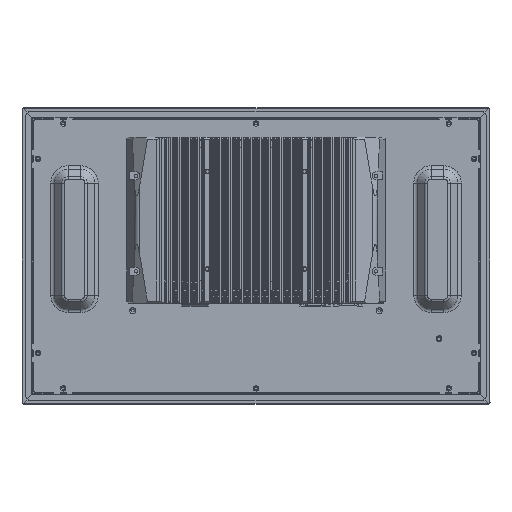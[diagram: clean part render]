
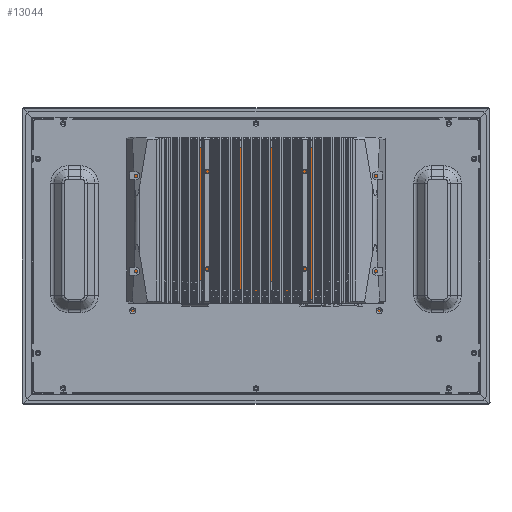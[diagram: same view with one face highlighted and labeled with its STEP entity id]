
A CAD part, top view. The second image highlights one B-rep face of the part: STEP entity #13044.
In plain terms, the highlighted planar face has unit normal (0, 0, -1).
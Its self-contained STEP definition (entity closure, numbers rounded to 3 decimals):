
#547 = AXIS2_PLACEMENT_3D ( 'NONE', #26414, #79817, #38566 ) ;
#584 = CARTESIAN_POINT ( 'NONE',  ( -205.1, -115.52, 0.2 ) ) ;
#1296 = DIRECTION ( 'NONE',  ( 1., 0., 0. ) ) ;
#2211 = CARTESIAN_POINT ( 'NONE',  ( 205.1, -115.52, 0.2 ) ) ;
#3041 = DIRECTION ( 'NONE',  ( -1., 0., 0. ) ) ;
#5070 = EDGE_CURVE ( 'NONE', #83509, #12127, #64584, .T. ) ;
#9489 = ORIENTED_EDGE ( 'NONE', *, *, #91323, .F. ) ;
#12127 = VERTEX_POINT ( 'NONE', #27437 ) ;
#13044 = ADVANCED_FACE ( 'NONE', ( #44707 ), #67589, .T. ) ;
#14508 = EDGE_LOOP ( 'NONE', ( #84929, #68093, #9489, #52059 ) ) ;
#15234 = LINE ( 'NONE', #56360, #61712 ) ;
#18016 = EDGE_CURVE ( 'NONE', #59425, #51558, #25346, .T. ) ;
#18915 = DIRECTION ( 'NONE',  ( 0., 1., 0. ) ) ;
#20870 = CARTESIAN_POINT ( 'NONE',  ( -205.1, 115.52, 0.2 ) ) ;
#25346 = LINE ( 'NONE', #78761, #31465 ) ;
#26414 = CARTESIAN_POINT ( 'NONE',  ( 0., 0., 0.2 ) ) ;
#27437 = CARTESIAN_POINT ( 'NONE',  ( 205.1, 115.52, 0.2 ) ) ;
#31465 = VECTOR ( 'NONE', #37488, 1000. ) ;
#37488 = DIRECTION ( 'NONE',  ( 0., -1., 0. ) ) ;
#38566 = DIRECTION ( 'NONE',  ( 1., 0., 0. ) ) ;
#42484 = CARTESIAN_POINT ( 'NONE',  ( -205.1, -115.52, 0.2 ) ) ;
#44707 = FACE_OUTER_BOUND ( 'NONE', #14508, .T. ) ;
#51558 = VERTEX_POINT ( 'NONE', #584 ) ;
#52059 = ORIENTED_EDGE ( 'NONE', *, *, #18016, .F. ) ;
#56286 = VECTOR ( 'NONE', #1296, 1000. ) ;
#56360 = CARTESIAN_POINT ( 'NONE',  ( 205.1, 115.52, 0.2 ) ) ;
#59425 = VERTEX_POINT ( 'NONE', #20870 ) ;
#61712 = VECTOR ( 'NONE', #3041, 1000. ) ;
#64584 = LINE ( 'NONE', #84504, #69074 ) ;
#67589 = PLANE ( 'NONE',  #547 ) ;
#68093 = ORIENTED_EDGE ( 'NONE', *, *, #5070, .F. ) ;
#69074 = VECTOR ( 'NONE', #18915, 1000. ) ;
#78761 = CARTESIAN_POINT ( 'NONE',  ( -205.1, 116.2, 0.2 ) ) ;
#79817 = DIRECTION ( 'NONE',  ( 0., 0., -1. ) ) ;
#83509 = VERTEX_POINT ( 'NONE', #2211 ) ;
#83718 = LINE ( 'NONE', #42484, #56286 ) ;
#84504 = CARTESIAN_POINT ( 'NONE',  ( 205.1, -116.2, 0.2 ) ) ;
#84929 = ORIENTED_EDGE ( 'NONE', *, *, #90380, .F. ) ;
#90380 = EDGE_CURVE ( 'NONE', #12127, #59425, #15234, .T. ) ;
#91323 = EDGE_CURVE ( 'NONE', #51558, #83509, #83718, .T. ) ;
